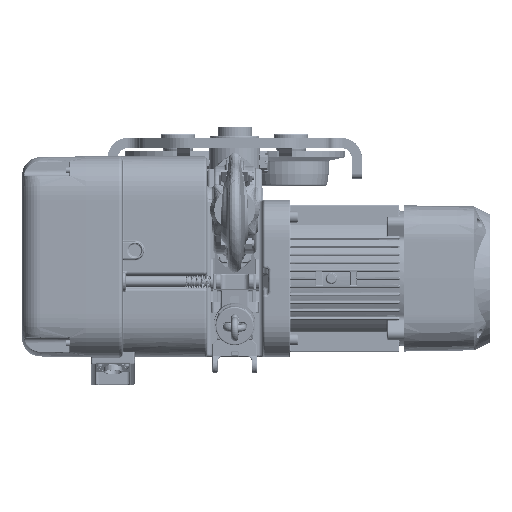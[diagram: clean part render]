
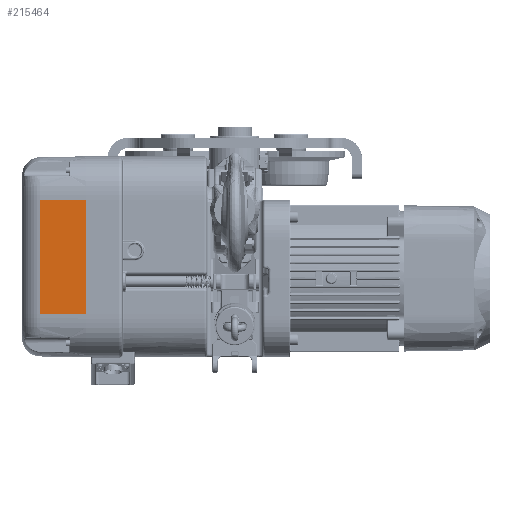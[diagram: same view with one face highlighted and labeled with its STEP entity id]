
A CAD part, front view. The second image highlights one B-rep face of the part: STEP entity #215464.
In plain terms, the highlighted planar face has unit normal (-0.018, -1, 0) as drawn and (0, -1, 0.017) by its records, which use the part's own axes.
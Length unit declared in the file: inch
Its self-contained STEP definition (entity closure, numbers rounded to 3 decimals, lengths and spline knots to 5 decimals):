
#6389 = VERTEX_POINT ( 'NONE', #203159 ) ;
#6559 = LINE ( 'NONE', #210529, #162176 ) ;
#11672 = ORIENTED_EDGE ( 'NONE', *, *, #167137, .T. ) ;
#20818 = VECTOR ( 'NONE', #188230, 39.37008 ) ;
#23164 = PLANE ( 'NONE',  #189028 ) ;
#26468 = VERTEX_POINT ( 'NONE', #171508 ) ;
#40062 = FACE_OUTER_BOUND ( 'NONE', #132520, .T. ) ;
#44702 = VERTEX_POINT ( 'NONE', #142473 ) ;
#49653 = EDGE_CURVE ( 'NONE', #52045, #26468, #6559, .T. ) ;
#51832 = LINE ( 'NONE', #120614, #20818 ) ;
#52045 = VERTEX_POINT ( 'NONE', #178525 ) ;
#65785 = EDGE_CURVE ( 'NONE', #6389, #26468, #174881, .T. ) ;
#67958 = ORIENTED_EDGE ( 'NONE', *, *, #179706, .F. ) ;
#74999 = CARTESIAN_POINT ( 'NONE',  ( 0., -5.21654, 0. ) ) ;
#92230 = DIRECTION ( 'NONE',  ( -1., 0., 0. ) ) ;
#103348 = VECTOR ( 'NONE', #188090, 39.37008 ) ;
#110708 = ORIENTED_EDGE ( 'NONE', *, *, #49653, .F. ) ;
#120614 = CARTESIAN_POINT ( 'NONE',  ( 3.53868, -5.21654, 0. ) ) ;
#126786 = ORIENTED_EDGE ( 'NONE', *, *, #65785, .T. ) ;
#132520 = EDGE_LOOP ( 'NONE', ( #67958, #11672, #126786, #110708 ) ) ;
#142473 = CARTESIAN_POINT ( 'NONE',  ( 3.53868, -5.1674, 2.8152 ) ) ;
#154430 = VECTOR ( 'NONE', #207549, 39.37008 ) ;
#155415 = LINE ( 'NONE', #158703, #103348 ) ;
#156903 = CARTESIAN_POINT ( 'NONE',  ( -3.53868, -5.21654, 0. ) ) ;
#158703 = CARTESIAN_POINT ( 'NONE',  ( 0., -5.1674, 2.8152 ) ) ;
#162176 = VECTOR ( 'NONE', #92230, 39.37008 ) ;
#167137 = EDGE_CURVE ( 'NONE', #44702, #6389, #155415, .T. ) ;
#171508 = CARTESIAN_POINT ( 'NONE',  ( -3.53868, -5.21654, 0. ) ) ;
#174881 = LINE ( 'NONE', #156903, #154430 ) ;
#178525 = CARTESIAN_POINT ( 'NONE',  ( 3.53868, -5.21654, 0. ) ) ;
#179706 = EDGE_CURVE ( 'NONE', #44702, #52045, #51832, .T. ) ;
#188090 = DIRECTION ( 'NONE',  ( -1., 0., 0. ) ) ;
#188230 = DIRECTION ( 'NONE',  ( 0., -0.017, -1. ) ) ;
#189028 = AXIS2_PLACEMENT_3D ( 'NONE', #74999, #213595, #210240 ) ;
#203159 = CARTESIAN_POINT ( 'NONE',  ( -3.53868, -5.1674, 2.8152 ) ) ;
#207549 = DIRECTION ( 'NONE',  ( 0., -0.017, -1. ) ) ;
#210240 = DIRECTION ( 'NONE',  ( 0., -0.017, -1. ) ) ;
#210529 = CARTESIAN_POINT ( 'NONE',  ( 0., -5.21654, 0. ) ) ;
#213595 = DIRECTION ( 'NONE',  ( 0., -1., 0.017 ) ) ;
#215464 = ADVANCED_FACE ( 'NONE', ( #40062 ), #23164, .T. ) ;
